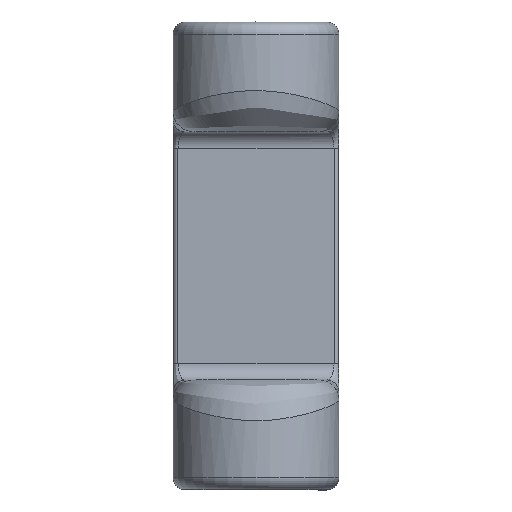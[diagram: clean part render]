
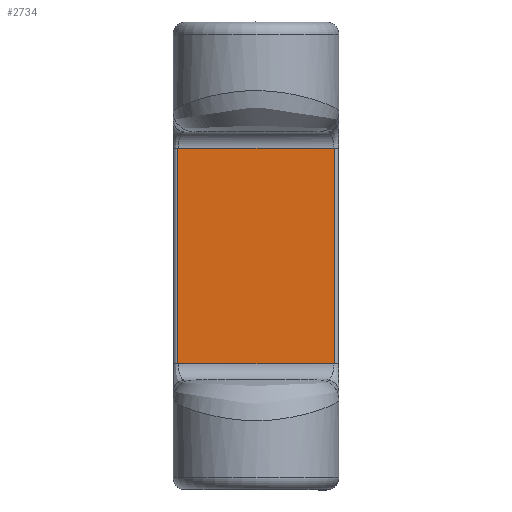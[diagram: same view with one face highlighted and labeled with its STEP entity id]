
A CAD part, top view. The second image highlights one B-rep face of the part: STEP entity #2734.
In plain terms, the highlighted planar face has unit normal (0, 0, 1).
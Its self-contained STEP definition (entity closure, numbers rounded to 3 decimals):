
#65=DIRECTION('',(0.,-1.,0.));
#66=VECTOR('',#65,26.4);
#67=CARTESIAN_POINT('',(-9.55,13.2,39.2));
#68=LINE('',#67,#66);
#82=DIRECTION('',(0.,1.,0.));
#83=VECTOR('',#82,26.4);
#84=CARTESIAN_POINT('',(9.55,-13.2,39.2));
#85=LINE('',#84,#83);
#905=CARTESIAN_POINT('',(-9.55,-13.2,39.2));
#944=DIRECTION('',(1.,0.,0.));
#945=VECTOR('',#944,19.1);
#946=CARTESIAN_POINT('',(-9.55,-13.2,39.2));
#947=LINE('',#946,#945);
#1033=CARTESIAN_POINT('',(9.55,-13.2,39.2));
#1950=CARTESIAN_POINT('',(9.55,13.2,39.2));
#1961=DIRECTION('',(1.,0.,0.));
#1962=VECTOR('',#1961,19.1);
#1963=CARTESIAN_POINT('',(-9.55,13.2,39.2));
#1964=LINE('',#1963,#1962);
#2004=CARTESIAN_POINT('',(-9.55,13.2,39.2));
#2377=VERTEX_POINT('',#2004);
#2386=VERTEX_POINT('',#1950);
#2437=VERTEX_POINT('',#905);
#2446=VERTEX_POINT('',#1033);
#2720=CARTESIAN_POINT('',(-10.15,15.2,39.2));
#2721=DIRECTION('',(0.,0.,1.));
#2722=DIRECTION('',(0.,-1.,0.));
#2723=AXIS2_PLACEMENT_3D('',#2720,#2721,#2722);
#2724=PLANE('',#2723);
#2726=ORIENTED_EDGE('',*,*,#2725,.F.);
#2728=ORIENTED_EDGE('',*,*,#2727,.F.);
#2729=ORIENTED_EDGE('',*,*,#2710,.F.);
#2731=ORIENTED_EDGE('',*,*,#2730,.T.);
#2732=EDGE_LOOP('',(#2726,#2728,#2729,#2731));
#2733=FACE_OUTER_BOUND('',#2732,.F.);
#2734=ADVANCED_FACE('',(#2733),#2724,.T.);
#2710=EDGE_CURVE('',#2377,#2437,#68,.T.);
#2725=EDGE_CURVE('',#2446,#2386,#85,.T.);
#2727=EDGE_CURVE('',#2437,#2446,#947,.T.);
#2730=EDGE_CURVE('',#2377,#2386,#1964,.T.);
